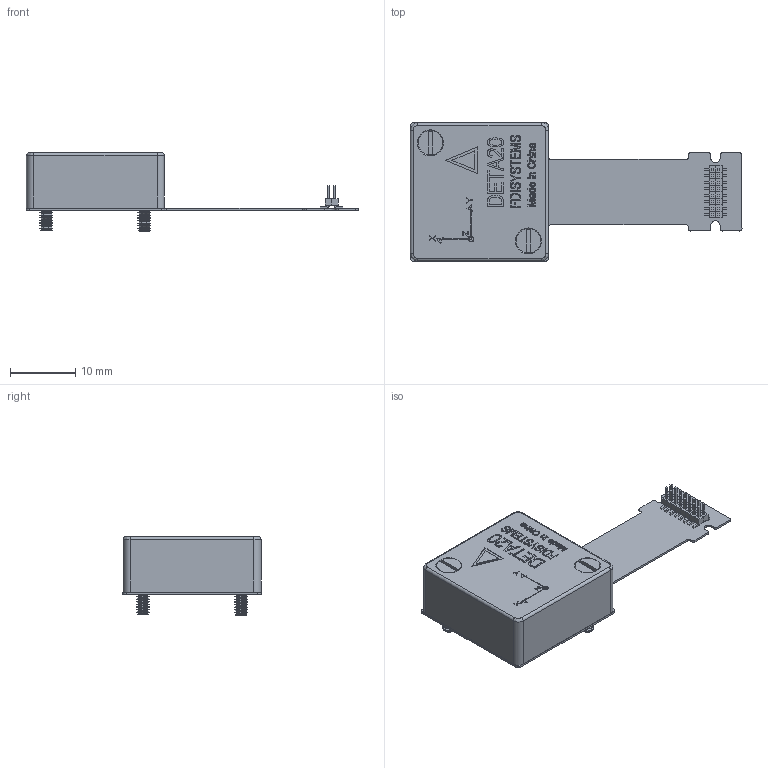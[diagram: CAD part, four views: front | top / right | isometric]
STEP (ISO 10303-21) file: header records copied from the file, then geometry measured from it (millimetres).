
FILE_DESCRIPTION(('Open CASCADE Model'),'2;1');
FILE_NAME('Open CASCADE Shape Model','2024-01-18T15:27:39',('Author'),( 'Open CASCADE'),'Open CASCADE STEP processor 6.8','Open CASCADE 6.8' ,'Unknown');
FILE_SCHEMA(('AUTOMOTIVE_DESIGN { 1 0 10303 214 1 1 1 1 }'));
Length unit declared in the file: millimetre
Products named in the file (17): PCB; Board; Open CASCADE STEP translator 6.8 2.1.1; U?; 蚾饜极-DETA20-0726; DETA20啣赽; Open_CASCADE_STEP_translator_6.8_1.1.1; DATA20ｸﾇ; 蚾饜极-齬渀-0720.STEP; ________-0720.STEP; M1.6X5-0720.step; M2X10-0720.step; DATA20-0723; P?; 蚾饜极-齬渀-0720_RGB8421504; 等跺齬渀-0720
Assembly tree (48 placements, depth 6):
  PCB
    Board
      Open CASCADE STEP translator 6.8 2.1.1
    U?
      蚾饜极-DETA20-0726
        DETA20啣赽
          Board
            Open_CASCADE_STEP_translator_6.8_1.1.1
        DATA20ｸﾇ
        蚾饜极-齬渀-0720.STEP
          ________-0720.STEP  x16
        M1.6X5-0720.step  x2
        M2X10-0720.step  x2
        DATA20-0723
    P?
      蚾饜极-齬渀-0720_RGB8421504
        等跺齬渀-0720  x16
Bounding box: 51 x 21.28 x 12.03 mm (x, y, z)
Volume: 2642.3 mm3; surface area: 6130.3 mm2
Topology: 72 solids, 72 shells, 2209 faces, 5054 edges, 3063 vertices
Faces by surface type: plane 949, cylinder 373, cone 354, torus 336, bspline 190, sphere 7
Full cylindrical faces by diameter (mm): 2 x2
Entity records: 46818 total; most frequent: CARTESIAN_POINT 15624, ORIENTED_EDGE 5798, DIRECTION 5523, EDGE_CURVE 2899, AXIS2_PLACEMENT_3D 1950, VERTEX_POINT 1771, LINE 1623, VECTOR 1623
